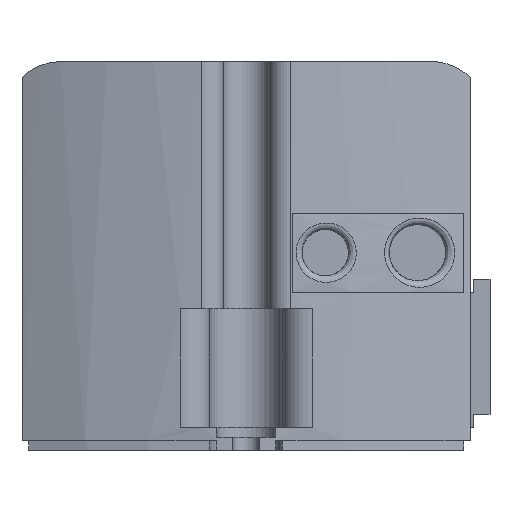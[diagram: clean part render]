
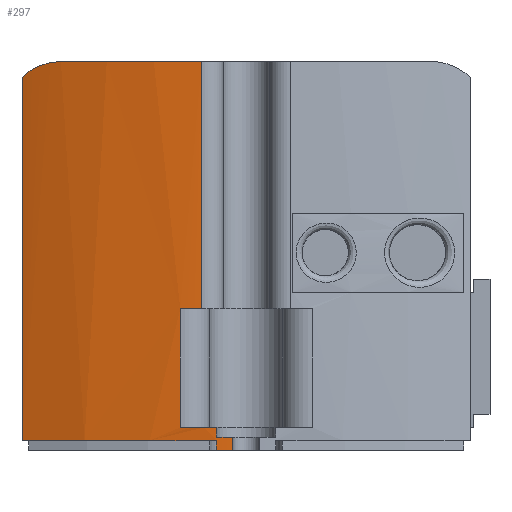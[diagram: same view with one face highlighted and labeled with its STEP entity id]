
A CAD part, front view. The second image highlights one B-rep face of the part: STEP entity #297.
In plain terms, the highlighted cylindrical face has radius 80 mm (diameter 160 mm), a partial arc.
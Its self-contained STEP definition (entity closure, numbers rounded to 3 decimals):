
#61=B_SPLINE_CURVE_WITH_KNOTS('',3,(#4371,#4372,#4373,#4374),.UNSPECIFIED.,
 .F.,.F.,(4,4),(0.,1.),.UNSPECIFIED.);
#93=FACE_OUTER_BOUND('',#1038,.T.);
#229=CYLINDRICAL_SURFACE('',#3051,80.);
#297=ADVANCED_FACE('',(#93),#229,.T.);
#554=LINE('',#4376,#774);
#555=LINE('',#4380,#775);
#556=LINE('',#4384,#776);
#557=LINE('',#4388,#777);
#558=LINE('',#4392,#778);
#559=LINE('',#4396,#779);
#774=VECTOR('',#3434,1.);
#775=VECTOR('',#3437,1.);
#776=VECTOR('',#3440,1.);
#777=VECTOR('',#3443,1.);
#778=VECTOR('',#3446,1.);
#779=VECTOR('',#3449,1.);
#1038=EDGE_LOOP('',(#1269,#1270,#1271,#1272,#1273,#1274,#1275,#1276,#1277,
#1278,#1279,#1280,#1281));
#1269=ORIENTED_EDGE('',*,*,#2411,.T.);
#1270=ORIENTED_EDGE('',*,*,#2441,.T.);
#1271=ORIENTED_EDGE('',*,*,#2442,.T.);
#1272=ORIENTED_EDGE('',*,*,#2443,.T.);
#1273=ORIENTED_EDGE('',*,*,#2444,.T.);
#1274=ORIENTED_EDGE('',*,*,#2445,.F.);
#1275=ORIENTED_EDGE('',*,*,#2446,.F.);
#1276=ORIENTED_EDGE('',*,*,#2447,.T.);
#1277=ORIENTED_EDGE('',*,*,#2448,.F.);
#1278=ORIENTED_EDGE('',*,*,#2449,.T.);
#1279=ORIENTED_EDGE('',*,*,#2450,.F.);
#1280=ORIENTED_EDGE('',*,*,#2451,.F.);
#1281=ORIENTED_EDGE('',*,*,#2452,.T.);
#2113=VERTEX_POINT('',#4303);
#2114=VERTEX_POINT('',#4305);
#2141=VERTEX_POINT('',#4375);
#2142=VERTEX_POINT('',#4377);
#2143=VERTEX_POINT('',#4379);
#2144=VERTEX_POINT('',#4381);
#2145=VERTEX_POINT('',#4383);
#2146=VERTEX_POINT('',#4385);
#2147=VERTEX_POINT('',#4387);
#2148=VERTEX_POINT('',#4389);
#2149=VERTEX_POINT('',#4391);
#2150=VERTEX_POINT('',#4393);
#2151=VERTEX_POINT('',#4395);
#2411=EDGE_CURVE('',#2114,#2113,#2845,.T.);
#2441=EDGE_CURVE('',#2113,#2141,#61,.T.);
#2442=EDGE_CURVE('',#2141,#2142,#554,.T.);
#2443=EDGE_CURVE('',#2142,#2143,#2855,.T.);
#2444=EDGE_CURVE('',#2143,#2144,#555,.T.);
#2445=EDGE_CURVE('',#2145,#2144,#2856,.T.);
#2446=EDGE_CURVE('',#2146,#2145,#556,.T.);
#2447=EDGE_CURVE('',#2146,#2147,#2857,.T.);
#2448=EDGE_CURVE('',#2148,#2147,#557,.T.);
#2449=EDGE_CURVE('',#2148,#2149,#2858,.T.);
#2450=EDGE_CURVE('',#2150,#2149,#558,.T.);
#2451=EDGE_CURVE('',#2151,#2150,#2859,.T.);
#2452=EDGE_CURVE('',#2151,#2114,#559,.T.);
#2845=CIRCLE('',#3032,80.);
#2855=CIRCLE('',#3046,80.);
#2856=CIRCLE('',#3047,80.);
#2857=CIRCLE('',#3048,80.);
#2858=CIRCLE('',#3049,80.);
#2859=CIRCLE('',#3050,80.);
#3032=AXIS2_PLACEMENT_3D('',#4304,#3388,#3389);
#3046=AXIS2_PLACEMENT_3D('',#4378,#3435,#3436);
#3047=AXIS2_PLACEMENT_3D('',#4382,#3438,#3439);
#3048=AXIS2_PLACEMENT_3D('',#4386,#3441,#3442);
#3049=AXIS2_PLACEMENT_3D('',#4390,#3444,#3445);
#3050=AXIS2_PLACEMENT_3D('',#4394,#3447,#3448);
#3051=AXIS2_PLACEMENT_3D('',#4397,#3450,#3451);
#3388=DIRECTION('',(0.,0.,-1.));
#3389=DIRECTION('',(1.,0.,0.));
#3434=DIRECTION('',(0.,0.,-1.));
#3435=DIRECTION('',(0.,0.,1.));
#3436=DIRECTION('',(1.,0.,0.));
#3437=DIRECTION('',(0.,0.,-1.));
#3438=DIRECTION('',(0.,0.,-1.));
#3439=DIRECTION('',(1.,0.,0.));
#3440=DIRECTION('',(0.,0.,-1.));
#3441=DIRECTION('',(0.,0.,-1.));
#3442=DIRECTION('',(1.,0.,0.));
#3443=DIRECTION('',(0.,0.,-1.));
#3444=DIRECTION('',(0.,0.,-1.));
#3445=DIRECTION('',(-1.,0.,0.));
#3446=DIRECTION('',(0.,0.,-1.));
#3447=DIRECTION('',(0.,0.,-1.));
#3448=DIRECTION('',(-1.,0.,0.));
#3449=DIRECTION('',(0.,0.,1.));
#3450=DIRECTION('',(0.,0.,-1.));
#3451=DIRECTION('',(-1.,0.,0.));
#4303=CARTESIAN_POINT('',(-28.1,5.097,59.));
#4304=CARTESIAN_POINT('',(0.,80.,59.));
#4305=CARTESIAN_POINT('',(-6.753,0.286,59.));
#4371=CARTESIAN_POINT('',(-28.1,5.097,59.));
#4372=CARTESIAN_POINT('',(-30.303,5.924,59.));
#4373=CARTESIAN_POINT('',(-32.395,6.831,58.167));
#4374=CARTESIAN_POINT('',(-34.,7.585,56.619));
#4375=CARTESIAN_POINT('',(-34.,7.585,56.619));
#4376=CARTESIAN_POINT('',(-34.,7.585,3.5));
#4377=CARTESIAN_POINT('',(-34.,7.585,1.5));
#4378=CARTESIAN_POINT('',(0.,80.,1.5));
#4379=CARTESIAN_POINT('',(-4.5,0.127,1.5));
#4380=CARTESIAN_POINT('',(-4.5,0.127,2.));
#4381=CARTESIAN_POINT('',(-4.5,0.127,0.));
#4382=CARTESIAN_POINT('',(0.,80.,0.));
#4383=CARTESIAN_POINT('',(-2.,0.025,0.));
#4384=CARTESIAN_POINT('',(-2.,0.025,2.));
#4385=CARTESIAN_POINT('',(-2.,0.025,2.));
#4386=CARTESIAN_POINT('',(0.,80.,2.));
#4387=CARTESIAN_POINT('',(-4.5,0.127,2.));
#4388=CARTESIAN_POINT('',(-4.5,0.127,3.5));
#4389=CARTESIAN_POINT('',(-4.5,0.127,3.5));
#4390=CARTESIAN_POINT('',(0.,80.,3.5));
#4391=CARTESIAN_POINT('',(-10.,0.627,3.5));
#4392=CARTESIAN_POINT('',(-10.,0.627,21.5));
#4393=CARTESIAN_POINT('',(-10.,0.627,21.5));
#4394=CARTESIAN_POINT('',(0.,80.,21.5));
#4395=CARTESIAN_POINT('',(-6.753,0.286,21.5));
#4396=CARTESIAN_POINT('',(-6.753,0.286,21.5));
#4397=CARTESIAN_POINT('',(0.,80.,3.5));
